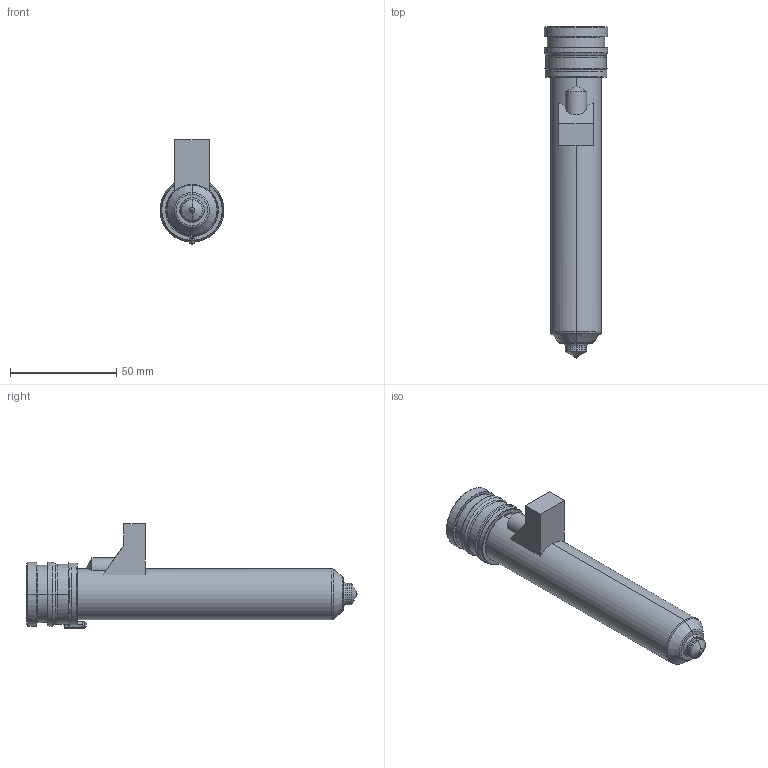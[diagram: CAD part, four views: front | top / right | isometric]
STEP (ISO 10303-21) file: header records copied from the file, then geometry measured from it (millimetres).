
FILE_DESCRIPTION((''),'2;1');
FILE_NAME('MPN-10-29-TS10-136-M','2026-02-05T12:49:40',('UPTIO'),('Thermoplay S.p.A.'),'CREO PARAMETRIC BY PTC INC, 2023494','CREO PARAMETRIC BY PTC INC, 2023494','');
FILE_SCHEMA(('CONFIG_CONTROL_DESIGN','SHAPE_APPEARANCE_LAYERS_GROUPS'));
Length unit declared in the file: millimetre
Products named in the file (1): MPN-10-29-TS10-136-M
Bounding box: 30 x 156 x 49 mm (x, y, z)
Volume: 49127.3 mm3; surface area: 50341.6 mm2
Topology: 3 solids, 5 shells, 542 faces, 1383 edges, 843 vertices
Faces by surface type: cylinder 177, plane 148, bspline 72, torus 67, cone 64, sphere 10, extrusion 4
Entity records: 29231 total; most frequent: CARTESIAN_POINT 13455, ORIENTED_EDGE 2748, DIRECTION 2578, EDGE_CURVE 1374, AXIS2_PLACEMENT_3D 1023, VERTEX_POINT 843, EDGE_LOOP 571, CIRCLE 556
